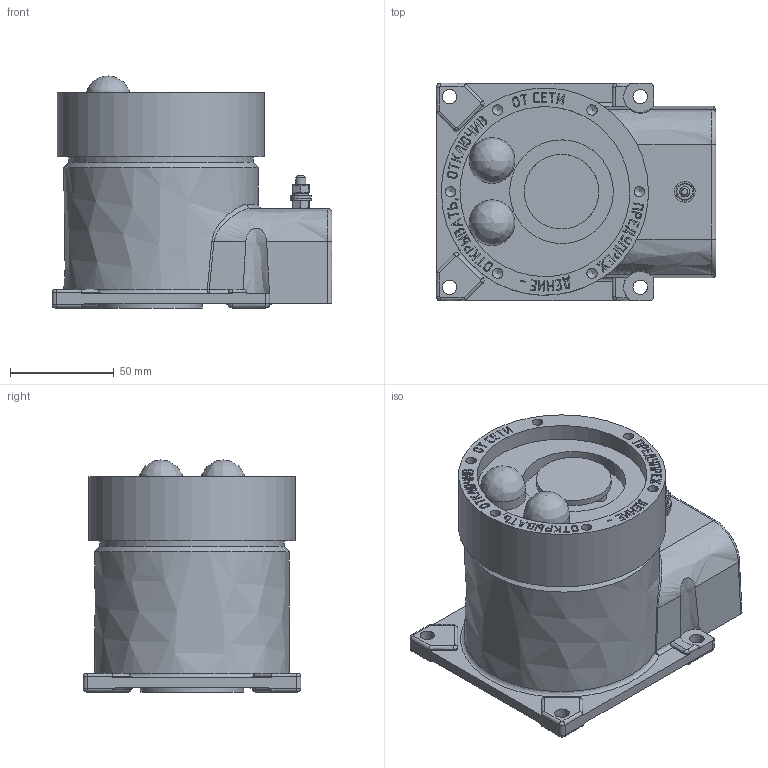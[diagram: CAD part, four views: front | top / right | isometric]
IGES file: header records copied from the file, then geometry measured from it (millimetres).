
Global section: file name: ExОПЗС алюминиевый М27; native system: Autodesk Inventor 2016; preprocessor: unknown; author: hudyakovak; date: 20180131.151400; units: millimetre
Bounding box: 135 x 105 x 112 mm (x, y, z)
Volume: 812571.3 mm3; surface area: 81245.5 mm2
Topology: 2 solids, 2 shells, 876 faces, 2370 edges, 1564 vertices
Faces by surface type: bspline 876
